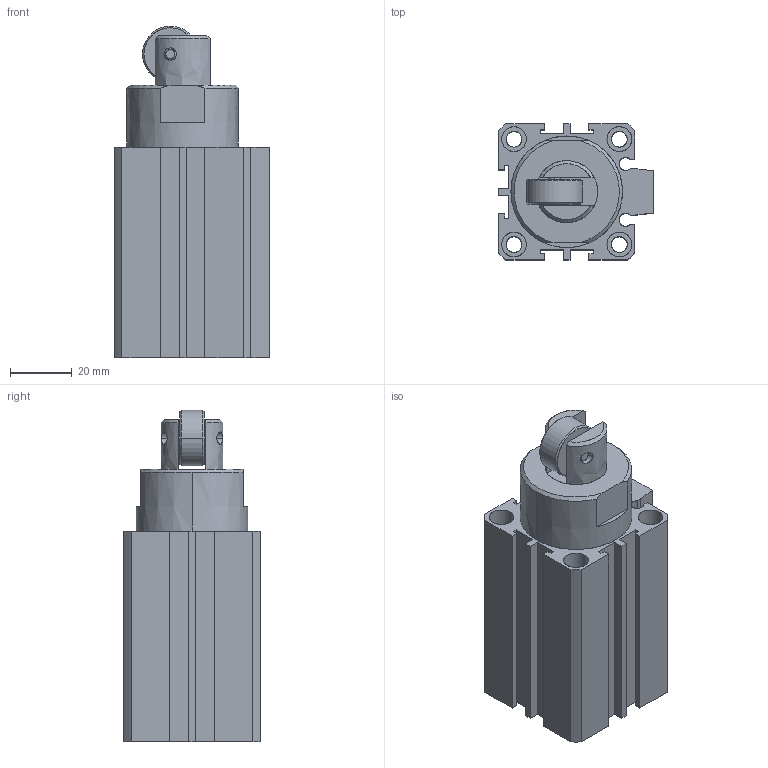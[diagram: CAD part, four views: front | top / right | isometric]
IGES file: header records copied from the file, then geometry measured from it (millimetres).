
Start section: SolidWorks IGES file using analytic representation for surfaces
Global section: file name: C:\Documents and Settings\admin\Bureau\stage de yaya\Plan Philippe Pince\PINCE\VUSB\pièces en 3D\VUSB STEP\ELOC-3DWG\ELOC-32-20 TIGE ENTREE.IGS; native system: SolidWorks 2007; preprocessor: SolidWorks 2007; author: admin; date: 080328.084508; units: millimetre
Bounding box: 50 x 44 x 107 mm (x, y, z)
Surface area: 38502.2 mm2 (no closed solid volume)
Topology: 0 solids, 0 shells, 835 faces, 10387 edges, 10429 vertices
Faces by surface type: bspline 773, revolution 62
